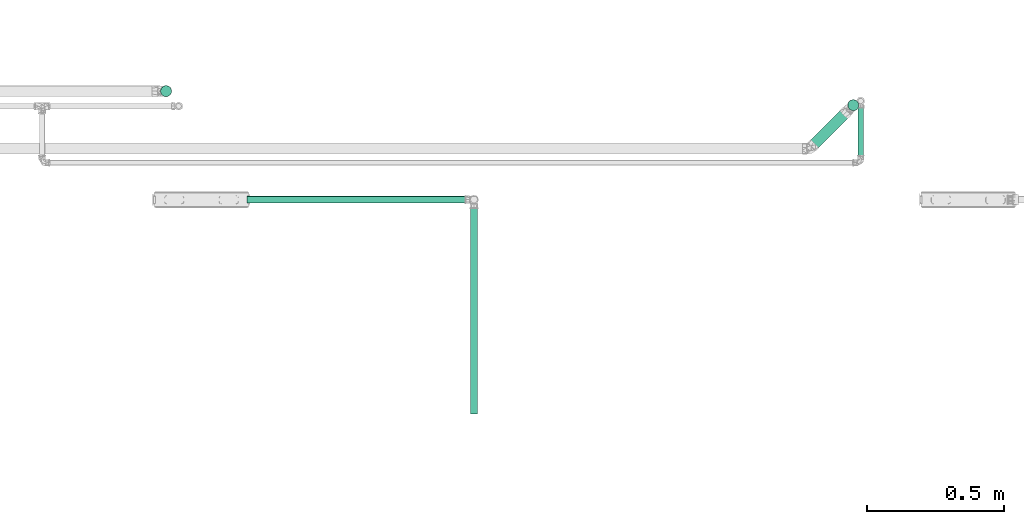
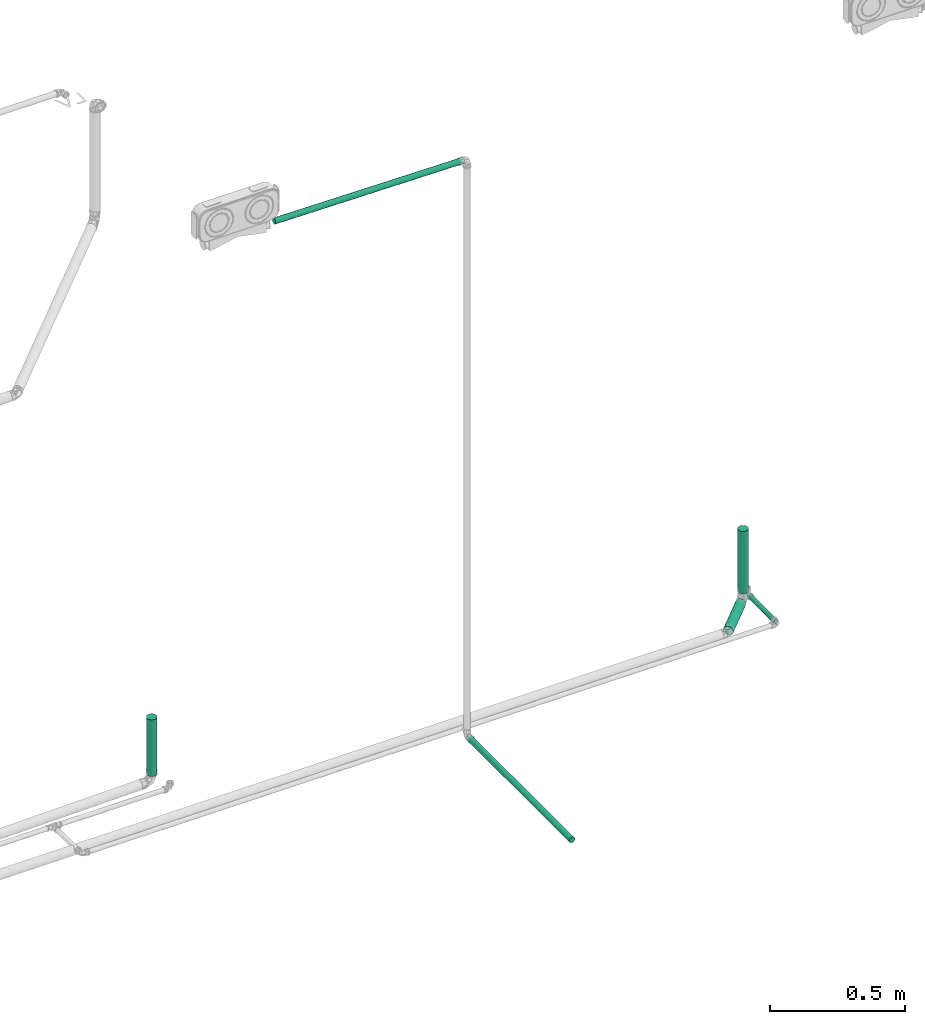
# One storey, part 34 of 589: 6 flow segments.
"""IFC2X3 building model written with IfcOpenShell, lengths in millimetres."""

from ifc_helpers import new_model, entity, si_unit, converted_unit, derived_unit, direction, frame, frame_2d, origin, origin_2d_with_axis, place, context, subcontext, project, spatial, circle, extrude, type_object, element, save


model = new_model("IFC2X3")

# Units and contexts
model_context = context("Model", 3, precision=0.01, world=origin(), true_north=direction((6.123031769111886e-17, 1.0)))
body_context = subcontext(model_context, "Body", "Model", "MODEL_VIEW")
ifc_project = project(units=[si_unit("LENGTHUNIT", "METRE", prefix="MILLI"), si_unit("AREAUNIT", "SQUARE_METRE"), si_unit("VOLUMEUNIT", "CUBIC_METRE"), converted_unit("PLANEANGLEUNIT", "DEGREE", entity("IfcRatioMeasure", 0.017453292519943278), si_unit("PLANEANGLEUNIT", "RADIAN"), dimensions=[0, 0, 0, 0, 0, 0, 0]), si_unit("MASSUNIT", "GRAM", prefix="KILO"), derived_unit("MASSDENSITYUNIT", [(si_unit("MASSUNIT", "GRAM", prefix="KILO"), 1), (si_unit("LENGTHUNIT", "METRE"), -3)]), derived_unit("IONCONCENTRATIONUNIT", [(si_unit("MASSUNIT", "GRAM", prefix="KILO"), 1), (si_unit("LENGTHUNIT", "METRE"), -3)]), derived_unit("MOMENTOFINERTIAUNIT", [(si_unit("LENGTHUNIT", "METRE"), 4)]), si_unit("TIMEUNIT", "SECOND"), si_unit("FREQUENCYUNIT", "HERTZ"), si_unit("THERMODYNAMICTEMPERATUREUNIT", "DEGREE_CELSIUS"), derived_unit("THERMALTRANSMITTANCEUNIT", [(si_unit("MASSUNIT", "GRAM", prefix="KILO"), 1), (si_unit("THERMODYNAMICTEMPERATUREUNIT", "KELVIN"), -1), (si_unit("TIMEUNIT", "SECOND"), -3)]), derived_unit("THERMALCONDUCTANCEUNIT", [(si_unit("MASSUNIT", "GRAM", prefix="KILO"), 1), (si_unit("THERMODYNAMICTEMPERATUREUNIT", "KELVIN"), -1), (si_unit("TIMEUNIT", "SECOND"), -3), (si_unit("LENGTHUNIT", "METRE"), 1)]), derived_unit("VOLUMETRICFLOWRATEUNIT", [(si_unit("LENGTHUNIT", "METRE"), 3), (si_unit("TIMEUNIT", "SECOND"), -1)]), derived_unit("MASSFLOWRATEUNIT", [(si_unit("MASSUNIT", "GRAM", prefix="KILO"), 1), (si_unit("TIMEUNIT", "SECOND"), -1)]), derived_unit("ROTATIONALFREQUENCYUNIT", [(si_unit("TIMEUNIT", "SECOND"), -1)]), si_unit("ELECTRICCURRENTUNIT", "AMPERE"), si_unit("ELECTRICVOLTAGEUNIT", "VOLT"), si_unit("POWERUNIT", "WATT"), si_unit("FORCEUNIT", "NEWTON", prefix="KILO"), si_unit("ILLUMINANCEUNIT", "LUX"), si_unit("LUMINOUSFLUXUNIT", "LUMEN"), si_unit("LUMINOUSINTENSITYUNIT", "CANDELA"), derived_unit("USERDEFINED", [(si_unit("MASSUNIT", "GRAM", prefix="KILO"), -1), (si_unit("LENGTHUNIT", "METRE"), -2), (si_unit("TIMEUNIT", "SECOND"), 3), (si_unit("LUMINOUSFLUXUNIT", "LUMEN"), 1)]), derived_unit("USERDEFINED", [(si_unit("MASSUNIT", "GRAM", prefix="KILO"), 1), (si_unit("TIMEUNIT", "SECOND"), -3), (si_unit("LENGTHUNIT", "METRE"), 3), (si_unit("ELECTRICCURRENTUNIT", "AMPERE"), -2)]), derived_unit("SOUNDPOWERUNIT", [(si_unit("MASSUNIT", "GRAM", prefix="KILO"), 1), (si_unit("TIMEUNIT", "SECOND"), -3), (si_unit("LENGTHUNIT", "METRE"), 2)]), derived_unit("SOUNDPRESSUREUNIT", [(si_unit("MASSUNIT", "GRAM", prefix="KILO"), 1), (si_unit("LENGTHUNIT", "METRE"), -1), (si_unit("TIMEUNIT", "SECOND"), -2)]), derived_unit("LINEARVELOCITYUNIT", [(si_unit("LENGTHUNIT", "METRE"), 1), (si_unit("TIMEUNIT", "SECOND"), -1)]), si_unit("PRESSUREUNIT", "PASCAL"), derived_unit("USERDEFINED", [(si_unit("MASSUNIT", "GRAM", prefix="KILO"), 1), (si_unit("LENGTHUNIT", "METRE"), -2), (si_unit("TIMEUNIT", "SECOND"), -2)]), derived_unit("LINEARFORCEUNIT", [(si_unit("MASSUNIT", "GRAM", prefix="KILO"), 1), (si_unit("TIMEUNIT", "SECOND"), -2)]), derived_unit("PLANARFORCEUNIT", [(si_unit("MASSUNIT", "GRAM", prefix="KILO"), 1), (si_unit("LENGTHUNIT", "METRE"), -1), (si_unit("TIMEUNIT", "SECOND"), -2)]), derived_unit("SPECIFICHEATCAPACITYUNIT", [(si_unit("THERMODYNAMICTEMPERATUREUNIT", "KELVIN"), -1), (si_unit("LENGTHUNIT", "METRE"), 2), (si_unit("TIMEUNIT", "SECOND"), -2)]), derived_unit("HEATINGVALUEUNIT", [(si_unit("LENGTHUNIT", "METRE"), 2), (si_unit("TIMEUNIT", "SECOND"), -2)]), derived_unit("VAPORPERMEABILITYUNIT", [(si_unit("LENGTHUNIT", "METRE"), -1), (si_unit("TIMEUNIT", "SECOND"), 1)]), derived_unit("DYNAMICVISCOSITYUNIT", [(si_unit("MASSUNIT", "GRAM", prefix="KILO"), 1), (si_unit("TIMEUNIT", "SECOND"), -1), (si_unit("LENGTHUNIT", "METRE"), -1)]), derived_unit("THERMALEXPANSIONCOEFFICIENTUNIT", [(si_unit("THERMODYNAMICTEMPERATUREUNIT", "KELVIN"), -1)]), derived_unit("MODULUSOFELASTICITYUNIT", [(si_unit("MASSUNIT", "GRAM", prefix="KILO"), 1), (si_unit("LENGTHUNIT", "METRE"), -1), (si_unit("TIMEUNIT", "SECOND"), -2)]), derived_unit("ISOTHERMALMOISTURECAPACITYUNIT", [(si_unit("LENGTHUNIT", "METRE"), 3), (si_unit("MASSUNIT", "GRAM", prefix="KILO"), -1)]), derived_unit("MOISTUREDIFFUSIVITYUNIT", [(si_unit("TIMEUNIT", "SECOND"), -1), (si_unit("LENGTHUNIT", "METRE"), 2)])], contexts=[model_context])

# Site, building, storey
site_placement = place(None, origin())
site = spatial("IfcSite", under=ifc_project, at=site_placement, Name="Default", CompositionType="ELEMENT")
building_placement = place(site_placement, origin())
building = spatial("IfcBuilding", under=site, at=building_placement, CompositionType="ELEMENT")
storey_placement = place(building_placement, frame((0.0, 0.0, 100.0)))
storey = spatial("IfcBuildingStorey", under=building, at=storey_placement, Name="TÉRREO", CompositionType="ELEMENT", Elevation=100.0)

# Flow segments
pipe_segment_type_1 = type_object("IfcPipeSegmentType", Name="Tipos de tubos:PVC Esgoto Série Normal", PredefinedType="NOTDEFINED")
flow_segment_1_placement = place(storey_placement, origin())
element("IfcFlowSegment", 1, at=flow_segment_1_placement, inside=storey, type_object=pipe_segment_type_1, Name="Tipos de tubos:PVC Esgoto Série Normal", ObjectType="Tipos de tubos:PVC Esgoto Série Normal", context=body_context, shape_type="SweptSolid", body=[
    extrude(circle(Radius=20.0, at=frame_2d((3.8285134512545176e-13, -1.3490023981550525e-14), x_axis=(1.0, 0.0))), frame((-3584.7267126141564, -7694.224693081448, -111.8755357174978), z_axis=(0.70696540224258, 0.70696540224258, 0.01999600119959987), x_axis=(0.7071067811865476, -0.7071067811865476, 0.0)), (0.0, 0.0, 1.0), 180.57619944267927),
])
flow_segment_2_placement = place(storey_placement, origin())
element("IfcFlowSegment", 2, at=flow_segment_2_placement, inside=storey, type_object=pipe_segment_type_1, Name="Tipos de tubos:PVC Esgoto Série Normal", ObjectType="Tipos de tubos:PVC Esgoto Série Normal", context=body_context, shape_type="SweptSolid", body=[
    extrude(circle(Radius=20.0, at=frame_2d((1.2214333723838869e-18, 4.454231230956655e-19), x_axis=(1.0, 0.0))), frame((-3434.296909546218, -7543.794890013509, -75.41702112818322), z_axis=(7.218959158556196e-05, 2.632555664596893e-05, 0.999999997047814), x_axis=(0.9999999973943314, 0.0, -7.218959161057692e-05)), (0.0, 0.0, 1.0), 283.20790325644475),
])
flow_segment_3_placement = place(storey_placement, origin())
element("IfcFlowSegment", 3, at=flow_segment_3_placement, inside=storey, type_object=pipe_segment_type_1, Name="Tipos de tubos:PVC Esgoto Série Normal", ObjectType="Tipos de tubos:PVC Esgoto Série Normal", context=body_context, shape_type="SweptSolid", body=[
    extrude(circle(Radius=20.0, at=origin_2d_with_axis()), frame((-5936.027847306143, -7492.68162922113, -57.008805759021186), z_axis=(6.0703737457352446e-05, 2.6456759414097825e-05, 0.9999999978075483), x_axis=(1.0, 0.0, -6.0703737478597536e-05)), (0.0, 0.0, 1.0), 257.008805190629),
])
pipe_segment_type_2 = type_object("IfcPipeSegmentType", Name="Tipos de tubos:PVC Marrom Soldável", PredefinedType="NOTDEFINED")
flow_segment_4_placement = place(storey_placement, origin())
element("IfcFlowSegment", 4, at=flow_segment_4_placement, inside=storey, type_object=pipe_segment_type_2, Name="Tipos de tubos:PVC Marrom Soldável", ObjectType="Tipos de tubos:PVC Marrom Soldável", context=body_context, shape_type="SweptSolid", body=[
    extrude(circle(Radius=10.0, at=frame_2d((0.0, -1.0574874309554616e-14), x_axis=(1.0, 0.0))), frame((-3407.3955348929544, -7740.915281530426, -104.85493019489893), z_axis=(0.0, 1.0, 0.0), x_axis=(1.0, 0.0, 0.0)), (0.0, 0.0, 1.0), 197.69356585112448),
])
flow_segment_5_placement = place(storey_placement, origin())
element("IfcFlowSegment", 5, at=flow_segment_5_placement, inside=storey, type_object=pipe_segment_type_2, Name="Tipos de tubos:PVC Marrom Soldável", ObjectType="Tipos de tubos:PVC Marrom Soldável", context=body_context, shape_type="SweptSolid", body=[
    extrude(circle(Radius=12.5, at=frame_2d((-4.2222592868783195e-20, -9.417920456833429e-08), x_axis=(1.0, 0.0))), frame((-4815.026748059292, -8667.861288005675, -37.354644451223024), z_axis=(-1.8287699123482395e-07, 1.0, 0.0), x_axis=(-1.0, -1.8287699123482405e-07, 0.0)), (0.0, 0.0, 1.0), 764.6000422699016),
])
flow_segment_6_placement = place(storey_placement, origin())
element("IfcFlowSegment", 6, at=flow_segment_6_placement, inside=storey, type_object=pipe_segment_type_2, Name="Tipos de tubos:PVC Marrom Soldável", ObjectType="Tipos de tubos:PVC Marrom Soldável", context=body_context, shape_type="SweptSolid", body=[
    extrude(circle(Radius=12.5, at=origin_2d_with_axis()), frame((-5640.9017185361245, -7887.861245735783, 2579.199580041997), z_axis=(0.9999500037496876, 0.0, -0.009999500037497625), x_axis=(0.0, -1.0, 0.0)), (0.0, 0.0, 1.0), 809.4452586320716),
])

save(model, "model.ifc")
